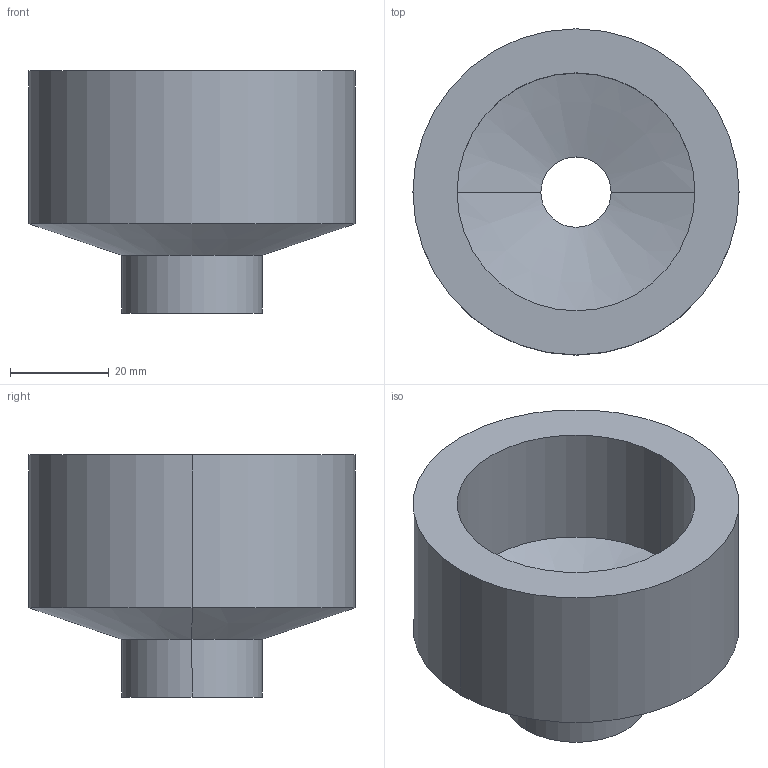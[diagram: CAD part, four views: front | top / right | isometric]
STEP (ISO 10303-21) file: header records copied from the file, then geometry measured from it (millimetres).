
FILE_DESCRIPTION (( 'STEP AP203' ), '1' );
FILE_NAME ('PMR07 FADO.STEP', '2022-08-23T10:23:40', ( '' ), ( '' ), 'SwSTEP 2.0', 'SolidWorks 2021', '' );
FILE_SCHEMA (( 'CONFIG_CONTROL_DESIGN' ));
Length unit declared in the file: millimetre
Products named in the file (1): PMR07 FADO
Bounding box: 66 x 66 x 49 mm (x, y, z)
Volume: 69929.4 mm3; surface area: 19117.4 mm2
Topology: 1 solids, 1 shells, 17 faces, 34 edges, 20 vertices
Faces by surface type: cylinder 10, cone 4, plane 3
Entity records: 525 total; most frequent: DIRECTION 90, CARTESIAN_POINT 72, ORIENTED_EDGE 68, AXIS2_PLACEMENT_3D 38, EDGE_CURVE 34, CIRCLE 20, EDGE_LOOP 20, VERTEX_POINT 20
